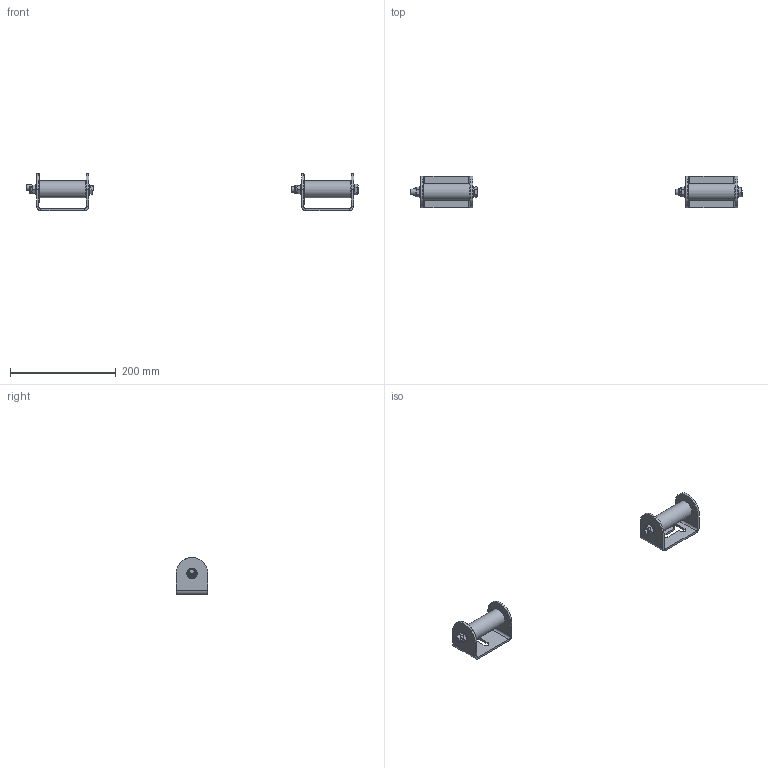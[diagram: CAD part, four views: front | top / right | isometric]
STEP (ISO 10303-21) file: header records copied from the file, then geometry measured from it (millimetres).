
FILE_DESCRIPTION(/* description */ (''),/* implementation_level */ '2;1');
FILE_NAME(/* name */ 'D:\VDV Techniek\Documents\Inventor\_ISP_Products\Narrow Walkway SS Gate\IGS-STP\Narrow Walkway SS Gate brackets assembly.stp',/* time_stamp */ '2024-12-15T18:48:10+01:00',/* author */ ('jos'),/* organization */ (''),/* preprocessor_version */ 'ST-DEVELOPER v15.2',/* originating_system */ 'Autodesk Inventor 2014',/* authorisation */ '');
FILE_SCHEMA (('AUTOMOTIVE_DESIGN { 1 0 10303 214 3 1 1 }'));
Length unit declared in the file: millimetre
Products named in the file (8): Bracket 60mm H; DIN 125 - A 10,5; DIN 961 - M10 x 120 x 116,25; ANSI B18.16.3M - Property Class 5 and 10 - Metric M10 x 1.5 Top Inser
t Type; Teflon washer; Bearing bush; Bracket 60mm V; Narrow Walkway SS Gate brackets assembly
Assembly tree (14 placements, depth 2):
  Narrow Walkway SS Gate brackets assembly
    Bracket 60mm H
    DIN 125 - A 10,5  x4
    DIN 961 - M10 x 120 x 116,25  x2
    ANSI B18.16.3M - Property Class 5 and 10 - Metric M10 x 1.5 Top Inser
t Type  x2
    Teflon washer  x2
    Bearing bush  x2
    Bracket 60mm V
Bounding box: 626.54 x 60 x 70.31 mm (x, y, z)
Volume: 250065.8 mm3; surface area: 103321.5 mm2
Topology: 14 solids, 14 shells, 174 faces, 362 edges, 220 vertices
Faces by surface type: plane 91, cylinder 51, cone 32
Full cylindrical faces by diameter (mm): 5 x4, 8.376 x2, 10 x2, 10.5 x6, 11 x6, 13.6 x2, 15.4 x2, 20 x4, 32 x2, 55 x2
Entity records: 3275 total; most frequent: CARTESIAN_POINT 578, DIRECTION 564, ORIENTED_EDGE 458, EDGE_CURVE 229, AXIS2_PLACEMENT_3D 227, EDGE_LOOP 168, VERTEX_POINT 151, ADVANCED_FACE 116
